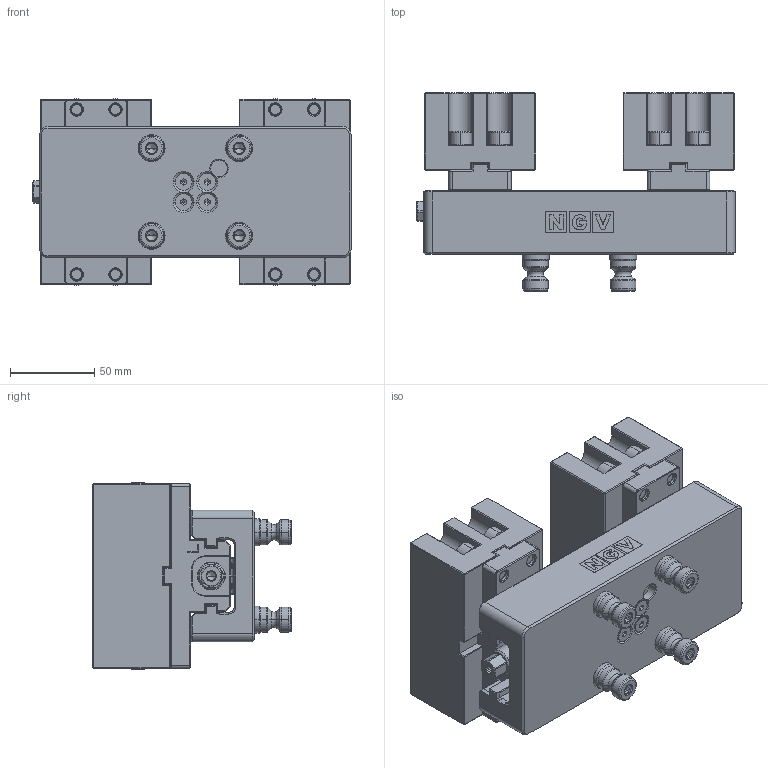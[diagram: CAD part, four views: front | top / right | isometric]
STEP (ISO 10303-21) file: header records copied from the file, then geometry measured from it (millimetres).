
FILE_DESCRIPTION((''),'2;1');
FILE_NAME('SJV78L-XL_00_0_ASM','2025-06-27T',('Bogdan'),('umc'),'PRO/ENGINEER BY PARAMETRIC TECHNOLOGY CORPORATION, 2010280','PRO/ENGINEER BY PARAMETRIC TECHNOLOGY CORPORATION, 2010280','');
FILE_SCHEMA(('CONFIG_CONTROL_DESIGN'));
Length unit declared in the file: millimetre
Products named in the file (13): CORP_2; SEMICUPLA; SURUB_2; INEL_O_10SI5X1SI75; SURUB_M5X12; PIN_CENTRARE; STIFT_FILETAT_M8X20; SASS_PIN_ASM; SJV78S-XL_05_0_SANIE_DREAPTA; SJV78S-XL_06_0_SANIE_STANGA; SJV78S-XL_10_0_BAC_MOALE_OTEL; SURUB_CAP_INBUS_M8X25; SJV78L-XL_00_0_ASM
Assembly tree (28 placements, depth 3):
  SJV78L-XL_00_0_ASM
    CORP_2
    SEMICUPLA  x2
    SURUB_2
    INEL_O_10SI5X1SI75  x2
    SURUB_M5X12  x4
    SASS_PIN_ASM  x4
      PIN_CENTRARE
      STIFT_FILETAT_M8X20
    SJV78S-XL_05_0_SANIE_DREAPTA
    SJV78S-XL_06_0_SANIE_STANGA
    SJV78S-XL_10_0_BAC_MOALE_OTEL  x2
    SURUB_CAP_INBUS_M8X25  x8
Bounding box: 189 x 118 x 111 mm (x, y, z)
Volume: 1171862.2 mm3; surface area: 220900.5 mm2
Topology: 30 solids, 66 shells, 2017 faces, 4988 edges, 3061 vertices
Faces by surface type: plane 1074, cylinder 420, cone 377, torus 92, extrusion 38, bspline 16
Entity records: 38645 total; most frequent: CARTESIAN_POINT 8068, DIRECTION 6265, ORIENTED_EDGE 6218, EDGE_CURVE 3155, VECTOR 2199, LINE 2161, AXIS2_PLACEMENT_3D 2033, VERTEX_POINT 1974
